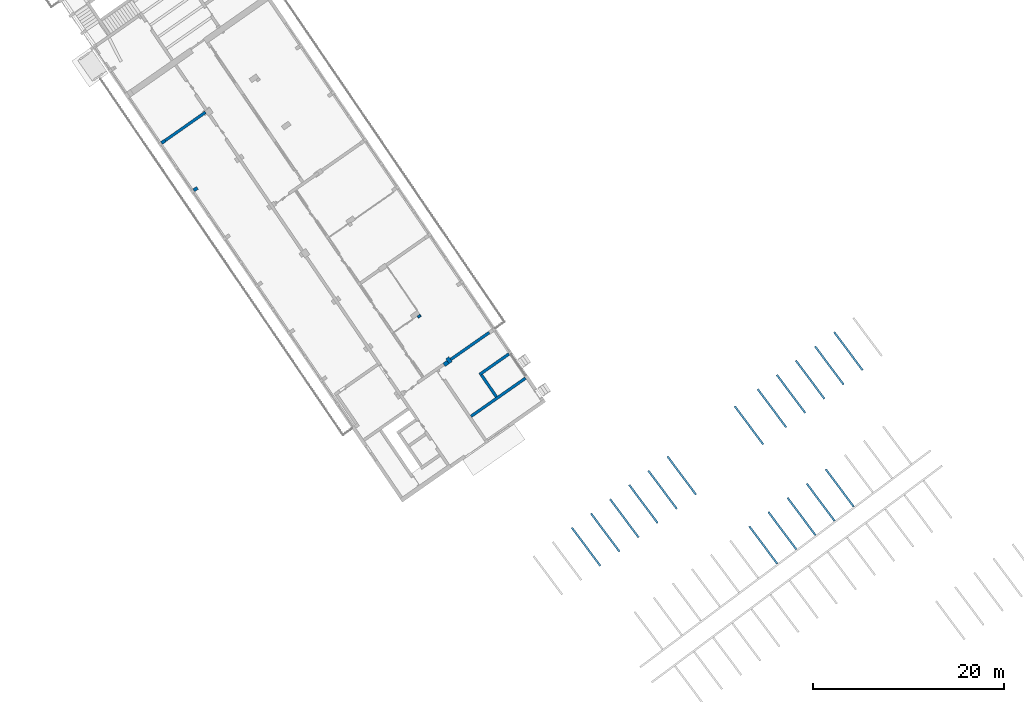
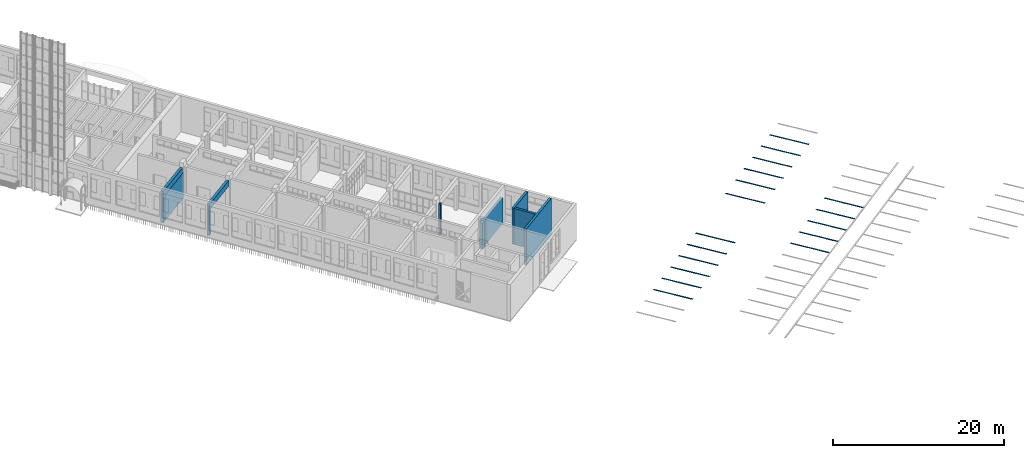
# One storey, part 66 of 157: 27 walls, 2 openings.
"""IFC2X3 building model written with IfcOpenShell, lengths in millimetres."""

from ifc_helpers import new_model, entity, si_unit, converted_unit, derived_unit, direction, frame, frame_2d, origin, origin_2d_with_axis, place, context, subcontext, project, spatial, polyline, rectangle, outline, extrude, material, layer, layer_set, layer_usage, type_object, element, save


model = new_model("IFC2X3")

# Units and contexts
model_context = context("Model", 3, precision=0.01, world=origin(), true_north=direction((6.123031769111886e-17, 1.0)))
body_context = subcontext(model_context, "Body", "Model", "MODEL_VIEW")
ifc_project = project(units=[si_unit("LENGTHUNIT", "METRE", prefix="MILLI"), si_unit("AREAUNIT", "SQUARE_METRE"), si_unit("VOLUMEUNIT", "CUBIC_METRE"), converted_unit("PLANEANGLEUNIT", "DEGREE", entity("IfcRatioMeasure", 0.017453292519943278), si_unit("PLANEANGLEUNIT", "RADIAN"), dimensions=[0, 0, 0, 0, 0, 0, 0]), si_unit("MASSUNIT", "GRAM", prefix="KILO"), derived_unit("MASSDENSITYUNIT", [(si_unit("MASSUNIT", "GRAM", prefix="KILO"), 1), (si_unit("LENGTHUNIT", "METRE"), -3)]), derived_unit("MOMENTOFINERTIAUNIT", [(si_unit("LENGTHUNIT", "METRE"), 4)]), si_unit("TIMEUNIT", "SECOND"), si_unit("FREQUENCYUNIT", "HERTZ"), si_unit("THERMODYNAMICTEMPERATUREUNIT", "DEGREE_CELSIUS"), derived_unit("THERMALTRANSMITTANCEUNIT", [(si_unit("MASSUNIT", "GRAM", prefix="KILO"), 1), (si_unit("THERMODYNAMICTEMPERATUREUNIT", "KELVIN"), -1), (si_unit("TIMEUNIT", "SECOND"), -3)]), derived_unit("THERMALCONDUCTANCEUNIT", [(si_unit("MASSUNIT", "GRAM", prefix="KILO"), 1), (si_unit("LENGTHUNIT", "METRE"), 1), (si_unit("THERMODYNAMICTEMPERATUREUNIT", "KELVIN"), -1), (si_unit("TIMEUNIT", "SECOND"), -3)]), derived_unit("VOLUMETRICFLOWRATEUNIT", [(si_unit("LENGTHUNIT", "METRE"), 3), (si_unit("TIMEUNIT", "SECOND"), -1)]), derived_unit("MASSFLOWRATEUNIT", [(si_unit("MASSUNIT", "GRAM", prefix="KILO"), 1), (si_unit("TIMEUNIT", "SECOND"), -1)]), derived_unit("ROTATIONALFREQUENCYUNIT", [(si_unit("TIMEUNIT", "SECOND"), -1)]), si_unit("ELECTRICCURRENTUNIT", "AMPERE"), si_unit("ELECTRICVOLTAGEUNIT", "VOLT"), si_unit("POWERUNIT", "WATT"), converted_unit("FORCEUNIT", "KIP", entity("IfcRatioMeasure", 2.088543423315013e-05), si_unit("FORCEUNIT", "NEWTON"), dimensions=[1, 1, -2, 0, 0, 0, 0]), si_unit("ILLUMINANCEUNIT", "LUX"), si_unit("LUMINOUSFLUXUNIT", "LUMEN"), si_unit("LUMINOUSINTENSITYUNIT", "CANDELA"), derived_unit("USERDEFINED", [(si_unit("MASSUNIT", "GRAM", prefix="KILO"), -1), (si_unit("LENGTHUNIT", "METRE"), -2), (si_unit("TIMEUNIT", "SECOND"), 3), (si_unit("LUMINOUSFLUXUNIT", "LUMEN"), 1)]), derived_unit("USERDEFINED", [(si_unit("MASSUNIT", "GRAM", prefix="KILO"), 1), (si_unit("LENGTHUNIT", "METRE"), 3), (si_unit("TIMEUNIT", "SECOND"), -3), (si_unit("ELECTRICCURRENTUNIT", "AMPERE"), -2)]), derived_unit("USERDEFINED", [(si_unit("LENGTHUNIT", "METRE"), 2), (si_unit("TIMEUNIT", "SECOND"), -2)]), derived_unit("SOUNDPOWERUNIT", [(si_unit("MASSUNIT", "GRAM", prefix="KILO"), 1), (si_unit("LENGTHUNIT", "METRE"), 2), (si_unit("TIMEUNIT", "SECOND"), -3)]), derived_unit("SOUNDPRESSUREUNIT", [(si_unit("MASSUNIT", "GRAM", prefix="KILO"), 1), (si_unit("LENGTHUNIT", "METRE"), -1), (si_unit("TIMEUNIT", "SECOND"), -2)]), derived_unit("LINEARVELOCITYUNIT", [(si_unit("LENGTHUNIT", "METRE"), 1), (si_unit("TIMEUNIT", "SECOND"), -1)]), si_unit("PRESSUREUNIT", "PASCAL"), derived_unit("USERDEFINED", [(si_unit("LENGTHUNIT", "METRE"), -2), (si_unit("MASSUNIT", "GRAM", prefix="KILO"), 1), (si_unit("TIMEUNIT", "SECOND"), -2)]), derived_unit("LINEARFORCEUNIT", [(si_unit("MASSUNIT", "GRAM", prefix="KILO"), 1), (si_unit("LENGTHUNIT", "METRE"), 1), (si_unit("TIMEUNIT", "SECOND"), -2), (si_unit("LENGTHUNIT", "METRE"), -1)]), derived_unit("PLANARFORCEUNIT", [(si_unit("MASSUNIT", "GRAM", prefix="KILO"), 1), (si_unit("LENGTHUNIT", "METRE"), 1), (si_unit("TIMEUNIT", "SECOND"), -2), (si_unit("LENGTHUNIT", "METRE"), -2)]), derived_unit("SPECIFICHEATCAPACITYUNIT", [(si_unit("LENGTHUNIT", "METRE"), 2), (si_unit("TIMEUNIT", "SECOND"), -2), (si_unit("THERMODYNAMICTEMPERATUREUNIT", "KELVIN"), -1)]), derived_unit("VAPORPERMEABILITYUNIT", [(si_unit("TIMEUNIT", "SECOND"), 1), (si_unit("LENGTHUNIT", "METRE"), -1)]), derived_unit("DYNAMICVISCOSITYUNIT", [(si_unit("MASSUNIT", "GRAM", prefix="KILO"), 1), (si_unit("LENGTHUNIT", "METRE"), -1), (si_unit("TIMEUNIT", "SECOND"), -1)]), derived_unit("THERMALEXPANSIONCOEFFICIENTUNIT", [(si_unit("THERMODYNAMICTEMPERATUREUNIT", "KELVIN"), -1)])], contexts=[model_context])

# Site, building, storey
site_placement = place(None, frame((0.0, 0.0, 0.0), z_axis=(0.0, 0.0, 1.0), x_axis=(0.8191520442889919, 0.5735764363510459, 0.0)))
site = spatial("IfcSite", under=ifc_project, at=site_placement, Name="Default", CompositionType="ELEMENT")
building_placement = place(site_placement, origin())
building = spatial("IfcBuilding", under=site, at=building_placement, CompositionType="ELEMENT")
storey_placement = place(building_placement, origin())
storey = spatial("IfcBuildingStorey", under=building, at=storey_placement, Name="1.EG +0.00", CompositionType="ELEMENT", Elevation=-4.331468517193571e-12)

# Walls
ifc_material_1 = material(Name="road_markirovka")
wall_type_1 = type_object("IfcWallType", Name="04", PredefinedType="NOTDEFINED", material=ifc_material_1)
wall_1_placement = place(storey_placement, frame((-198480.91425091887, 35071.855419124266, -100.0), z_axis=(0.0, 0.0, 1.0), x_axis=(0.0, 1.0, 0.0)))
element("IfcWall", 1, at=wall_1_placement, inside=storey, type_object=wall_type_1, material=ifc_material_1, Name="04:04", ObjectType="04:04", context=body_context, shape_type="SweptSolid", body=[
    extrude(rectangle(XDim=200.00000000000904, YDim=4999.999999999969, at=origin_2d_with_axis()), frame((2501.8716955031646, -174.65166470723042, 0.0), z_axis=(0.0, 0.0, 1.0), x_axis=(-0.02987852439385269, 0.9995535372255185, 0.0)), (0.0, 0.0, 1.0), 9.99999999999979),
])
wall_type_2 = type_object("IfcWallType", Name="05", PredefinedType="NOTDEFINED", material=ifc_material_1)
wall_2_placement = place(storey_placement, frame((-176690.63421403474, 35723.20550940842, -100.0), z_axis=(0.0, 0.0, 1.0), x_axis=(0.0, 1.0, 0.0)))
element("IfcWall", 2, at=wall_2_placement, inside=storey, type_object=wall_type_2, material=ifc_material_1, Name="05 203892:05 203892", ObjectType="05 203892:05 203892", context=body_context, shape_type="SweptSolid", body=[
    extrude(rectangle(XDim=200.00000000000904, YDim=4999.999999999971, at=frame_2d((1.2789769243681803e-13, 4.320099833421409e-12), x_axis=(1.0, 0.0))), frame((2501.8716955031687, -174.6516647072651, 0.0), z_axis=(0.0, 0.0, 1.0), x_axis=(-0.02987852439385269, 0.9995535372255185, 0.0)), (0.0, 0.0, 1.0), 9.99999999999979),
])
wall_type_3 = type_object("IfcWallType", Name="05", PredefinedType="NOTDEFINED", material=ifc_material_1)
wall_3_placement = place(storey_placement, frame((-179189.51804448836, 35648.50877656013, -100.0), z_axis=(0.0, 0.0, 1.0), x_axis=(0.0, 1.0, 0.0)))
element("IfcWall", 3, at=wall_3_placement, inside=storey, type_object=wall_type_3, material=ifc_material_1, Name="05 203894:05 203894", ObjectType="05 203894:05 203894", context=body_context, shape_type="SweptSolid", body=[
    extrude(rectangle(XDim=200.00000000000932, YDim=4999.999999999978, at=origin_2d_with_axis()), frame((2501.8716955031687, -174.6516647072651, 0.0), z_axis=(0.0, 0.0, 1.0), x_axis=(-0.029878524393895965, 0.9995535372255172, 0.0)), (0.0, 0.0, 1.0), 9.99999999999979),
])
wall_type_4 = type_object("IfcWallType", Name="05", PredefinedType="NOTDEFINED", material=ifc_material_1)
wall_4_placement = place(storey_placement, frame((-181688.40187494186, 35573.81204371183, -100.0), z_axis=(0.0, 0.0, 1.0), x_axis=(0.0, 1.0, 0.0)))
element("IfcWall", 4, at=wall_4_placement, inside=storey, type_object=wall_type_4, material=ifc_material_1, Name="05 203897:05 203897", ObjectType="05 203897:05 203897", context=body_context, shape_type="SweptSolid", body=[
    extrude(rectangle(XDim=200.00000000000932, YDim=4999.999999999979, at=frame_2d((1.7188028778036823e-11, -5.002220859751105e-12), x_axis=(1.0, 0.0))), frame((2501.8716955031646, -174.6516647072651, 0.0), z_axis=(0.0, 0.0, 1.0), x_axis=(-0.029878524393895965, 0.9995535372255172, 0.0)), (0.0, 0.0, 1.0), 9.99999999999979),
])
wall_type_5 = type_object("IfcWallType", Name="05", PredefinedType="NOTDEFINED", material=ifc_material_1)
wall_5_placement = place(storey_placement, frame((-184187.28570539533, 35499.115310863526, -100.0), z_axis=(0.0, 0.0, 1.0), x_axis=(0.0, 1.0, 0.0)))
element("IfcWall", 5, at=wall_5_placement, inside=storey, type_object=wall_type_5, material=ifc_material_1, Name="05 203899:05 203899", ObjectType="05 203899:05 203899", context=body_context, shape_type="SweptSolid", body=[
    extrude(rectangle(XDim=200.00000000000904, YDim=4999.999999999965, at=frame_2d((1.2789769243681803e-13, 4.320099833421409e-12), x_axis=(1.0, 0.0))), frame((2501.8716955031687, -174.65166470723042, 0.0), z_axis=(0.0, 0.0, 1.0), x_axis=(-0.02987852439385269, 0.9995535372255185, 0.0)), (0.0, 0.0, 1.0), 9.99999999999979),
])
wall_type_6 = type_object("IfcWallType", Name="05", PredefinedType="NOTDEFINED", material=ifc_material_1)
wall_6_placement = place(storey_placement, frame((-189684.83013239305, 35334.78249859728, -100.0), z_axis=(0.0, 0.0, 1.0), x_axis=(0.0, 1.0, 0.0)))
element("IfcWall", 6, at=wall_6_placement, inside=storey, type_object=wall_type_6, material=ifc_material_1, Name="05 203901:05 203901", ObjectType="05 203901:05 203901", context=body_context, shape_type="SweptSolid", body=[
    extrude(rectangle(XDim=200.00000000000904, YDim=4999.999999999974, at=frame_2d((7.105427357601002e-14, 2.2737367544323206e-12), x_axis=(1.0, 0.0))), frame((2501.8716955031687, -174.6516647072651, 0.0), z_axis=(0.0, 0.0, 1.0), x_axis=(-0.02987852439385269, 0.9995535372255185, 0.0)), (0.0, 0.0, 1.0), 9.99999999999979),
])
wall_type_7 = type_object("IfcWallType", Name="05", PredefinedType="NOTDEFINED", material=ifc_material_1)
wall_7_placement = place(storey_placement, frame((-186686.16953584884, 35424.41857801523, -100.0), z_axis=(0.0, 0.0, 1.0), x_axis=(0.0, 1.0, 0.0)))
element("IfcWall", 7, at=wall_7_placement, inside=storey, type_object=wall_type_7, material=ifc_material_1, Name="05 203902:05 203902", ObjectType="05 203902:05 203902", context=body_context, shape_type="SweptSolid", body=[
    extrude(rectangle(XDim=200.00000000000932, YDim=4999.999999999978, at=frame_2d((1.731592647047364e-11, -4.547473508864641e-13), x_axis=(1.0, 0.0))), frame((2501.8716955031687, -174.6516647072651, 0.0), z_axis=(0.0, 0.0, 1.0), x_axis=(-0.029878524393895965, 0.9995535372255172, 0.0)), (0.0, 0.0, 1.0), 9.99999999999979),
])
wall_type_8 = type_object("IfcWallType", Name="04", PredefinedType="NOTDEFINED", material=ifc_material_1)
wall_8_placement = place(storey_placement, frame((-200979.79802347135, 34997.15674930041, -100.0), z_axis=(0.0, 0.0, 1.0), x_axis=(0.0, 1.0, 0.0)))
element("IfcWall", 8, at=wall_8_placement, inside=storey, type_object=wall_type_8, material=ifc_material_1, Name="04 204142:04 204142", ObjectType="04 204142:04 204142", context=body_context, shape_type="SweptSolid", body=[
    extrude(rectangle(XDim=200.00000000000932, YDim=4999.999999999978, at=frame_2d((1.731592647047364e-11, -4.547473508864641e-13), x_axis=(1.0, 0.0))), frame((2501.8716955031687, -174.6516647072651, 0.0), z_axis=(0.0, 0.0, 1.0), x_axis=(-0.029878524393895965, 0.9995535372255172, 0.0)), (0.0, 0.0, 1.0), 9.99999999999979),
])
wall_type_9 = type_object("IfcWallType", Name="05", PredefinedType="NOTDEFINED", material=ifc_material_1)
wall_9_placement = place(storey_placement, frame((-203478.6818655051, 34922.46040384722, -100.0), z_axis=(0.0, 0.0, 1.0), x_axis=(0.0, 1.0, 0.0)))
element("IfcWall", 9, at=wall_9_placement, inside=storey, type_object=wall_type_9, material=ifc_material_1, Name="05 204169:05 204169", ObjectType="05 204169:05 204169", context=body_context, shape_type="SweptSolid", body=[
    extrude(rectangle(XDim=200.00000000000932, YDim=4999.99999999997, at=frame_2d((-1.3500311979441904e-13, -4.320099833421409e-12), x_axis=(1.0, 0.0))), frame((2501.87169550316, -174.6516647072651, 0.0), z_axis=(0.0, 0.0, 1.0), x_axis=(-0.029878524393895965, 0.9995535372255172, 0.0)), (0.0, 0.0, 1.0), 9.99999999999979),
])
wall_type_10 = type_object("IfcWallType", Name="04", PredefinedType="NOTDEFINED", material=ifc_material_1)
wall_10_placement = place(storey_placement, frame((-205977.5656959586, 34847.76367099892, -100.0), z_axis=(0.0, 0.0, 1.0), x_axis=(0.0, 1.0, 0.0)))
element("IfcWall", 10, at=wall_10_placement, inside=storey, type_object=wall_type_10, material=ifc_material_1, Name="04 204245:04 204245", ObjectType="04 204245:04 204245", context=body_context, shape_type="SweptSolid", body=[
    extrude(rectangle(XDim=200.00000000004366, YDim=4999.999999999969, at=frame_2d((-1.7323031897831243e-11, 4.547473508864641e-13), x_axis=(1.0, 0.0))), frame((2501.8716955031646, -174.6516647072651, 0.0), z_axis=(0.0, 0.0, 1.0), x_axis=(-0.029878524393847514, 0.9995535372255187, 0.0)), (0.0, 0.0, 1.0), 9.99999999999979),
])
wall_type_11 = type_object("IfcWallType", Name="05", PredefinedType="NOTDEFINED", material=ifc_material_1)
wall_11_placement = place(storey_placement, frame((-208476.44952641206, 34773.0669381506, -100.0), z_axis=(0.0, 0.0, 1.0), x_axis=(0.0, 1.0, 0.0)))
element("IfcWall", 11, at=wall_11_placement, inside=storey, type_object=wall_type_11, material=ifc_material_1, Name="05 204282:05 204282", ObjectType="05 204282:05 204282", context=body_context, shape_type="SweptSolid", body=[
    extrude(rectangle(XDim=200.00000000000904, YDim=4999.999999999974, at=frame_2d((-1.738698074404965e-11, -1.5916157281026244e-12), x_axis=(1.0, 0.0))), frame((2501.8716955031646, -174.65166470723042, 0.0), z_axis=(0.0, 0.0, 1.0), x_axis=(-0.02987852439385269, 0.9995535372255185, 0.0)), (0.0, 0.0, 1.0), 9.99999999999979),
])
wall_type_12 = type_object("IfcWallType", Name="04", PredefinedType="NOTDEFINED", material=ifc_material_1)
wall_12_placement = place(storey_placement, frame((-210975.33335686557, 34698.370205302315, -100.0), z_axis=(0.0, 0.0, 1.0), x_axis=(0.0, 1.0, 0.0)))
element("IfcWall", 12, at=wall_12_placement, inside=storey, type_object=wall_type_12, material=ifc_material_1, Name="04 204451:04 204451", ObjectType="04 204451:04 204451", context=body_context, shape_type="SweptSolid", body=[
    extrude(rectangle(XDim=200.00000000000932, YDim=4999.9999999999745, at=origin_2d_with_axis()), frame((2501.8716955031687, -174.6516647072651, 0.0), z_axis=(0.0, 0.0, 1.0), x_axis=(-0.029878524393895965, 0.9995535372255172, 0.0)), (0.0, 0.0, 1.0), 9.99999999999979),
])
wall_type_13 = type_object("IfcWallType", Name="04", PredefinedType="NOTDEFINED", material=ifc_material_1)
wall_13_placement = place(storey_placement, frame((-185657.81838667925, 24453.234650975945, -100.0), z_axis=(0.0, 0.0, 1.0), x_axis=(0.0, 1.0, 0.0)))
element("IfcWall", 13, at=wall_13_placement, inside=storey, type_object=wall_type_13, material=ifc_material_1, Name="04 204786:04 204786", ObjectType="04 204786:04 204786", context=body_context, shape_type="SweptSolid", body=[
    extrude(outline(polyline([(-100.0, -2450.002344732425), (100.0, -2450.002344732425), (100.0, 2450.002318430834), (-100.0, 2450.002371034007), (-100.0, -2450.002344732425)])), frame((2548.8638450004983, -173.15840598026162, 0.0), z_axis=(0.0, 0.0, 1.0), x_axis=(-0.029878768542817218, 0.9995535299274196, 0.0)), (0.0, 0.0, 1.0), 9.999999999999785),
])
wall_type_14 = type_object("IfcWallType", Name="04", PredefinedType="NOTDEFINED", material=ifc_material_1)
wall_14_placement = place(storey_placement, frame((-188156.70221713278, 24378.53838686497, -100.0), z_axis=(0.0, 0.0, 1.0), x_axis=(0.0, 1.0, 0.0)))
element("IfcWall", 14, at=wall_14_placement, inside=storey, type_object=wall_type_14, material=ifc_material_1, Name="04 204871:04 204871", ObjectType="04 204871:04 204871", context=body_context, shape_type="SweptSolid", body=[
    extrude(outline(polyline([(-100.0, -2450.002110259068), (100.0, -2450.002110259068), (100.0, 2450.0020839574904), (-100.0, 2450.00213656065), (-100.0, -2450.002110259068)])), frame((2548.8636106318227, -173.15839897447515, 0.0), z_axis=(0.0, 0.0, 1.0), x_axis=(-0.029878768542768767, 0.999553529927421, 0.0)), (0.0, 0.0, 1.0), 9.99999999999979),
])
wall_type_15 = type_object("IfcWallType", Name="04", PredefinedType="NOTDEFINED", material=ifc_material_1)
wall_15_placement = place(storey_placement, frame((-193154.4698780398, 24229.14585864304, -100.0), z_axis=(0.0, 0.0, 1.0), x_axis=(0.0, 1.0, 0.0)))
element("IfcWall", 15, at=wall_15_placement, inside=storey, type_object=wall_type_15, material=ifc_material_1, Name="04 204886:04 204886", ObjectType="04 204886:04 204886", context=body_context, shape_type="SweptSolid", body=[
    extrude(outline(polyline([(-100.0, -2450.0016413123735), (100.0, -2450.0016413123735), (100.0, 2450.001615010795), (-100.0, 2450.0016676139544), (-100.0, -2450.0016413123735)])), frame((2548.863141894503, -173.15838496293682, 0.0), z_axis=(0.0, 0.0, 1.0), x_axis=(-0.029878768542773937, 0.9995535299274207, 0.0)), (0.0, 0.0, 1.0), 9.999999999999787),
])
wall_type_16 = type_object("IfcWallType", Name="04", PredefinedType="NOTDEFINED", material=ifc_material_1)
wall_16_placement = place(storey_placement, frame((-195653.3408466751, 24154.449978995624, -100.0), z_axis=(0.0, 0.0, 1.0), x_axis=(0.0, 1.0, 0.0)))
element("IfcWall", 16, at=wall_16_placement, inside=storey, type_object=wall_type_16, material=ifc_material_1, Name="04 204887:04 204887", ObjectType="04 204887:04 204887", context=body_context, shape_type="SweptSolid", body=[
    extrude(outline(polyline([(-100.0, -2450.001406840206), (100.0, -2450.001406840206), (100.0, 2450.0013805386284), (-100.0, 2450.0014331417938), (-100.0, -2450.001406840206)])), frame((2548.8629075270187, -173.158377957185, 0.0), z_axis=(0.0, 0.0, 1.0), x_axis=(-0.029878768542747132, 0.9995535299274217, 0.0)), (0.0, 0.0, 1.0), 9.999999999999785),
])
wall_type_17 = type_object("IfcWallType", Name="04", PredefinedType="NOTDEFINED", material=ifc_material_1)
wall_17_placement = place(storey_placement, frame((-190655.58604758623, 24303.842122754, -100.0), z_axis=(0.0, 0.0, 1.0), x_axis=(0.0, 1.0, 0.0)))
element("IfcWall", 17, at=wall_17_placement, inside=storey, type_object=wall_type_17, material=ifc_material_1, Name="04 204893:04 204893", ObjectType="04 204893:04 204893", context=body_context, shape_type="SweptSolid", body=[
    extrude(outline(polyline([(-100.0, -2450.001875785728), (100.0, -2450.001875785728), (100.0, 2450.001849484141), (-100.0, 2450.001902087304), (-100.0, -2450.001875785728)])), frame((2548.8633762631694, -173.1583919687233, 0.0), z_axis=(0.0, 0.0, 1.0), x_axis=(-0.029878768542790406, 0.9995535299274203, 0.0)), (0.0, 0.0, 1.0), 9.999999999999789),
])
ifc_material_2 = material(Name="Analytical Wall Surface_CJC")
ifc_layer_1 = layer(ifc_material_2, 300.0)
ifc_layer_set_1 = layer_set([ifc_layer_1], Name="Basic Wall:Wand_Innen_30")
ifc_layer_usage_1 = layer_usage(ifc_layer_set_1, "AXIS2", "NEGATIVE", 150.0)
wall_type_18 = type_object("IfcWallType", Name="Basic Wall:Wand_Innen_30", PredefinedType="STANDARD", material=ifc_layer_set_1)
wall_18_placement = place(storey_placement, frame((-222521.4180004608, 97394.41432674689, 0.0)))
element("IfcWallStandardCase", 18, at=wall_18_placement, inside=storey, type_object=wall_type_18, material=ifc_layer_usage_1, Name="Basic Wall:Wand_Innen_30", ObjectType="Basic Wall:Wand_Innen_30", context=body_context, shape_type="SweptSolid", body=[
    extrude(outline(polyline([(5164.210228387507, -150.0), (5168.031448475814, 150.0), (4917.557302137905, 150.0), (0.0, 150.0), (0.0, -150.0), (4917.557302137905, -150.0), (5164.210228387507, -150.0)])), origin(), (0.0, 0.0, 1.0), 3700.0000000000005),
])
wall_19_placement = place(storey_placement, frame((-212842.91553001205, 55321.358914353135, 0.0)))
element("IfcWallStandardCase", 19, at=wall_19_placement, inside=storey, type_object=wall_type_18, material=ifc_layer_usage_1, Name="Basic Wall:Wand_Innen_30", ObjectType="Basic Wall:Wand_Innen_30", context=body_context, shape_type="SweptSolid", body=[
    extrude(outline(polyline([(6977.379841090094, -150.0), (6981.191803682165, 150.0), (3504.102794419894, 150.0), (3204.0784851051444, 150.0), (3.8191857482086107, 150.0), (0.0, -150.0), (6977.379841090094, -150.0)])), origin(), (0.0, 0.0, 1.0), 5150.000000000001),
])
wall_20_placement = place(storey_placement, frame((-205822.65110976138, 58396.35891435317, 0.0), z_axis=(0.0, 0.0, 1.0), x_axis=(-1.0, 0.0, 0.0)))
element("IfcWallStandardCase", 20, at=wall_20_placement, inside=storey, type_object=wall_type_18, material=ifc_layer_usage_1, Name="Basic Wall:Wand_Innen_30", ObjectType="Basic Wall:Wand_Innen_30", context=body_context, shape_type="SweptSolid", body=[
    extrude(outline(polyline([(3777.0392812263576, -150.0), (3780.8584669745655, 150.0), (3480.834157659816, 150.0), (3.811962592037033, 150.0), (3.461311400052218, 122.40388512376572), (0.0, -150.0), (3777.0392812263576, -150.0)])), origin(), (0.0, 0.0, 1.0), 5150.000000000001),
])
wall_21_placement = place(storey_placement, frame((-209453.47311374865, 58248.26835250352, 0.0), z_axis=(0.0, 0.0, 1.0), x_axis=(-0.012729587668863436, -0.999918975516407, 0.0)))
element("IfcWallStandardCase", 21, at=wall_21_placement, inside=storey, type_object=wall_type_18, material=ifc_layer_usage_1, Name="Basic Wall:Wand_Innen_30", ObjectType="Basic Wall:Wand_Innen_30", context=body_context, shape_type="SweptSolid", body=[
    extrude(outline(polyline([(2779.0440469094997, -150.0), (2775.2248611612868, 150.0), (0.0, 150.0), (3.8191857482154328, -150.0), (2779.0440469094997, -150.0)])), origin(), (0.0, 0.0, 1.0), 5150.000000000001),
])
wall_22_placement = place(storey_placement, frame((-206240.36655649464, 61421.358914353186, 0.0), z_axis=(0.0, 0.0, 1.0), x_axis=(-1.0, 0.0, 0.0)))
element("IfcWallStandardCase", 22, at=wall_22_placement, inside=storey, type_object=wall_type_18, material=ifc_layer_usage_1, Name="Basic Wall:Wand_Innen_30", ObjectType="Basic Wall:Wand_Innen_30", context=body_context, shape_type="SweptSolid", body=[
    extrude(rectangle(XDim=4918.397237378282, YDim=300.00000000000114, at=frame_2d((2459.198618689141, -1.9326762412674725e-12), x_axis=(-1.0, 0.0))), origin(), (0.0, 0.0, 1.0), 3700.0000000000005),
])

# Wall, opening
ifc_layer_2 = layer(ifc_material_2, 350.0)
ifc_layer_set_2 = layer_set([ifc_layer_2], Name="Basic Wall:Wand_Innen_35")
ifc_layer_usage_2 = layer_usage(ifc_layer_set_2, "AXIS2", "NEGATIVE", 175.0)
wall_type_19 = type_object("IfcWallType", Name="Basic Wall:Wand_Innen_35", PredefinedType="STANDARD", material=ifc_layer_set_2)
wall_23_placement = place(storey_placement, frame((-223059.86028257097, 91394.90047364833, 0.0)))
wall_23 = element("IfcWallStandardCase", 23, at=wall_23_placement, inside=storey, type_object=wall_type_19, material=ifc_layer_usage_2, Name="Basic Wall:Wand_Innen_35", ObjectType="Basic Wall:Wand_Innen_35", context=body_context, shape_type="SweptSolid", body=[
    extrude(rectangle(XDim=5378.149586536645, YDim=349.9999999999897, at=frame_2d((2689.0747932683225, -1.3358203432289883e-12), x_axis=(-1.0, 0.0))), origin(), (0.0, 0.0, 1.0), 4500.0),
])
opening_1_placement = place(wall_23_placement, origin())
element("IfcOpeningElement", 24, at=opening_1_placement, cuts=wall_23, Name="Basic Wall:Wand_Innen_35", ObjectType="Opening", context=body_context, shape_type="SweptSolid", body=[
    extrude(rectangle(XDim=3700.0000000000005, YDim=4916.084830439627, at=frame_2d((1.7280399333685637e-11, 0.0), x_axis=(0.0, 1.0))), frame((2920.107171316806, 175.0, 1850.0), z_axis=(0.0, -1.0, 0.0), x_axis=(1.0, 0.0, 0.0)), (0.0, 0.0, 1.0), 350.0),
])

wall_24_placement = place(storey_placement, frame((-222983.48275655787, 97394.41432674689, 0.0)))
wall_24 = element("IfcWallStandardCase", 25, at=wall_24_placement, inside=storey, type_object=wall_type_19, material=ifc_layer_usage_2, Name="Basic Wall:Wand_Innen_35", ObjectType="Basic Wall:Wand_Innen_35", context=body_context, shape_type="SweptSolid", body=[
    extrude(rectangle(XDim=5378.149586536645, YDim=349.9999999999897, at=frame_2d((2689.0747932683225, -1.3358203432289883e-12), x_axis=(-1.0, 0.0))), origin(), (0.0, 0.0, 1.0), 4499.9999999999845),
])
opening_2_placement = place(wall_24_placement, origin())
element("IfcOpeningElement", 26, at=opening_2_placement, cuts=wall_24, Name="Basic Wall:Wand_Innen_35", ObjectType="Opening", context=body_context, shape_type="SweptSolid", body=[
    extrude(rectangle(XDim=3699.9999999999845, YDim=4916.084830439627, at=frame_2d((1.7280399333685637e-11, 0.0), x_axis=(0.0, 1.0))), frame((2920.1071713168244, 175.0, 1850.0), z_axis=(0.0, -1.0, 0.0), x_axis=(1.0, 0.0, 0.0)), (0.0, 0.0, 1.0), 350.0),
])

# Walls
wall_25_placement = place(storey_placement, frame((-211268.533551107, 66896.35891435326, 0.0), z_axis=(0.0, 0.0, 1.0), x_axis=(0.0, 1.0, 0.0)))
element("IfcWallStandardCase", 27, at=wall_25_placement, inside=storey, type_object=wall_type_19, material=ifc_layer_usage_2, Name="Basic Wall:Wand_Innen_35", ObjectType="Basic Wall:Wand_Innen_35", context=body_context, shape_type="SweptSolid", body=[
    extrude(rectangle(XDim=250.48614690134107, YDim=350.0000000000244, at=frame_2d((125.24307345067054, 5.400124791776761e-13), x_axis=(-1.0, 0.0))), origin(), (0.0, 0.0, 1.0), 4350.0),
])
ifc_layer_3 = layer(ifc_material_2, 630.0)
ifc_layer_set_3 = layer_set([ifc_layer_3], Name="Basic Wall:Wand_Innen_63")
ifc_layer_usage_3 = layer_usage(ifc_layer_set_3, "AXIS2", "NEGATIVE", 315.0)
wall_type_20 = type_object("IfcWallType", Name="Basic Wall:Wand_Innen_63", PredefinedType="STANDARD", material=ifc_layer_set_3)
wall_26_placement = place(storey_placement, frame((-211158.76379387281, 61461.35891435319, 0.0), z_axis=(0.0, 0.0, 1.0), x_axis=(-1.0, 0.0, 0.0)))
element("IfcWallStandardCase", 28, at=wall_26_placement, inside=storey, type_object=wall_type_20, material=ifc_layer_usage_3, Name="Basic Wall:Wand_Innen_63", ObjectType="Basic Wall:Wand_Innen_63", context=body_context, shape_type="SweptSolid", body=[
    extrude(rectangle(XDim=400.0324124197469, YDim=629.9999999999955, at=frame_2d((200.01620620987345, 7.958078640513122e-13), x_axis=(-1.0, 0.0))), origin(), (0.0, 0.0, 1.0), 3700.0000000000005),
])
ifc_layer_4 = layer(ifc_material_2, 430.00000000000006)
ifc_layer_set_4 = layer_set([ifc_layer_4], Name="Basic Wall:Wand_Innen_43")
ifc_layer_usage_4 = layer_usage(ifc_layer_set_4, "AXIS2", "NEGATIVE", 215.00000000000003)
wall_type_21 = type_object("IfcWallType", Name="Basic Wall:Wand_Innen_43", PredefinedType="STANDARD", material=ifc_layer_set_4)
wall_27_placement = place(storey_placement, frame((-211558.79620629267, 61361.35891435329, 0.0), z_axis=(0.0, 0.0, 1.0), x_axis=(-1.0, 0.0, 0.0)))
element("IfcWallStandardCase", 29, at=wall_27_placement, inside=storey, type_object=wall_type_21, material=ifc_layer_usage_4, Name="Basic Wall:Wand_Innen_43", ObjectType="Basic Wall:Wand_Innen_43", context=body_context, shape_type="SweptSolid", body=[
    extrude(rectangle(XDim=499.9999999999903, YDim=430.0000000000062, at=frame_2d((249.99999999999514, 5.400124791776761e-13), x_axis=(-1.0, 0.0))), origin(), (0.0, 0.0, 1.0), 3700.0000000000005),
])

save(model, "model.ifc")
